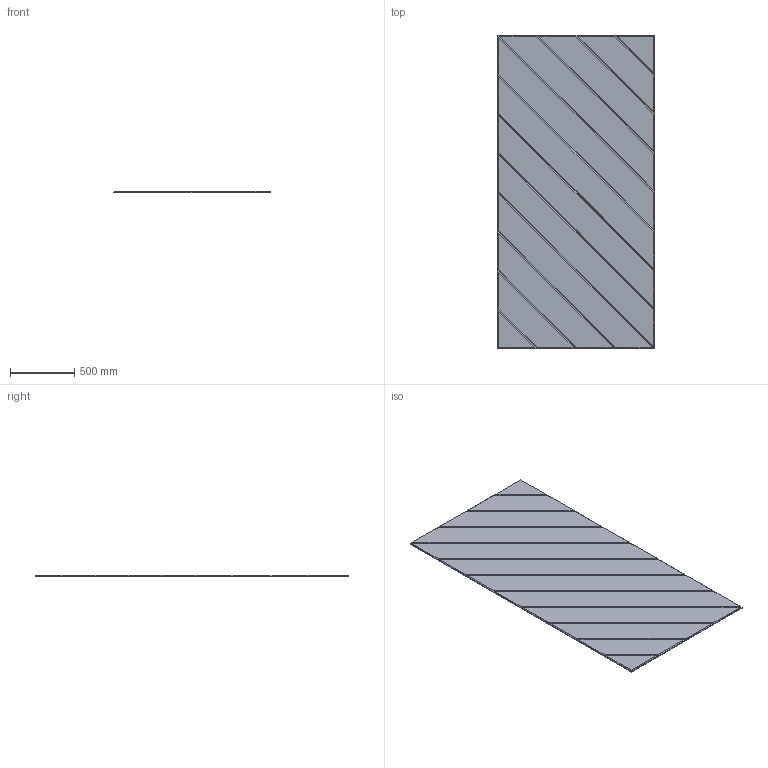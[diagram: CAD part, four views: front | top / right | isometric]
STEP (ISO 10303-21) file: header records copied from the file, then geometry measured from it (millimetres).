
FILE_DESCRIPTION(/* description */ (''),/* implementation_level */ '2;1');
FILE_NAME(/* name */ 'Y:\Design and Engineering\MaterialLogiq\CAD ASSETS\MASTER\PET ENGRAVED\WEB ASSETS\Downhill Sparse.stp',/* time_stamp */ '2024-08-26T09:56:23-05:00',/* author */ ('Grant Baker'),/* organization */ (''),/* preprocessor_version */ 'ST-DEVELOPER v19',/* originating_system */ 'Autodesk Inventor 2023',/* authorisation */ '');
FILE_SCHEMA (('AUTOMOTIVE_DESIGN { 1 0 10303 214 3 1 1 }'));
Length unit declared in the file: inch
Products named in the file (1): Downhill Sparse
Bounding box: 1219.2 x 2438.4 x 12.7 mm (x, y, z)
Volume: 37057939.5 mm3; surface area: 6082909.2 mm2
Topology: 1 solids, 1 shells, 63 faces, 135 edges, 74 vertices
Faces by surface type: plane 63
Entity records: 1650 total; most frequent: CARTESIAN_POINT 273, ORIENTED_EDGE 270, DIRECTION 263, LINE 135, VECTOR 135, EDGE_CURVE 135, VERTEX_POINT 74, AXIS2_PLACEMENT_3D 64
